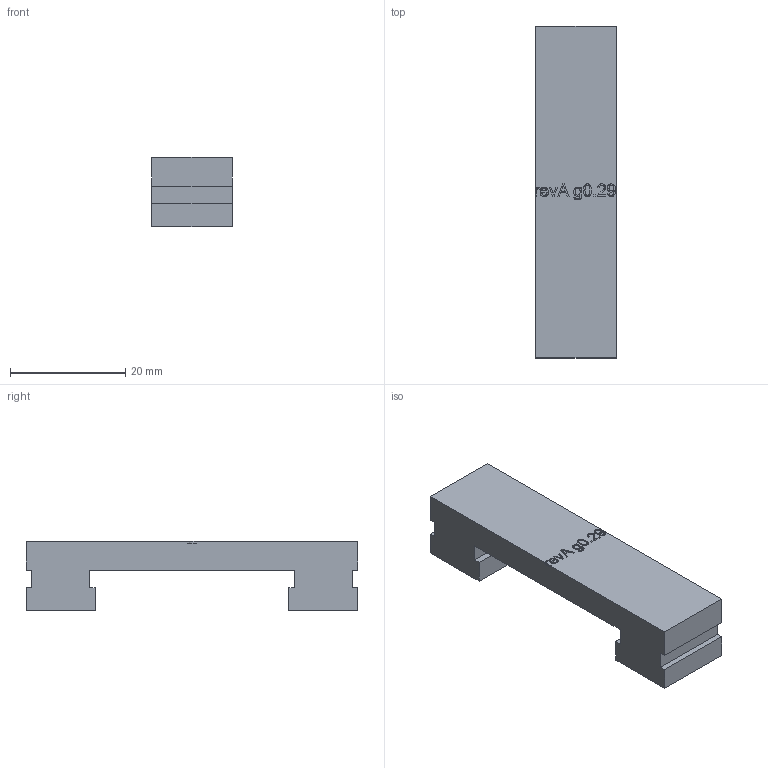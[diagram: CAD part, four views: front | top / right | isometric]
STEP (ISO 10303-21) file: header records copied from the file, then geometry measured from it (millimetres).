
FILE_DESCRIPTION(('Open CASCADE Model'),'2;1');
FILE_NAME('Open CASCADE Shape Model','2026-07-23T16:04:21',('Author'),( 'Open CASCADE'),'Open CASCADE STEP processor 7.9','build123d', 'Unknown');
FILE_SCHEMA(('AUTOMOTIVE_DESIGN { 1 0 10303 214 1 1 1 1 }'));
Length unit declared in the file: millimetre
Products named in the file (2): =>[0:1:1:2]; COMPOUND
Assembly tree (1 placements, depth 2):
  =>[0:1:1:2]
    COMPOUND
Bounding box: 14 x 57.6 x 12 mm (x, y, z)
Volume: 6117.1 mm3; surface area: 3277 mm2
Topology: 1 solids, 1 shells, 199 faces, 546 edges, 364 vertices
Faces by surface type: extrusion 120, plane 77, cylinder 2
Full cylindrical faces by diameter (mm): 3.5 x2
Entity records: 15404 total; most frequent: CARTESIAN_POINT 5665, DIRECTION 1240, ORIENTED_EDGE 1092, PCURVE 1092, DEFINITIONAL_REPRESENTATION 1092, VECTOR 1066, LINE 946, B_SPLINE_CURVE_WITH_KNOTS 804
